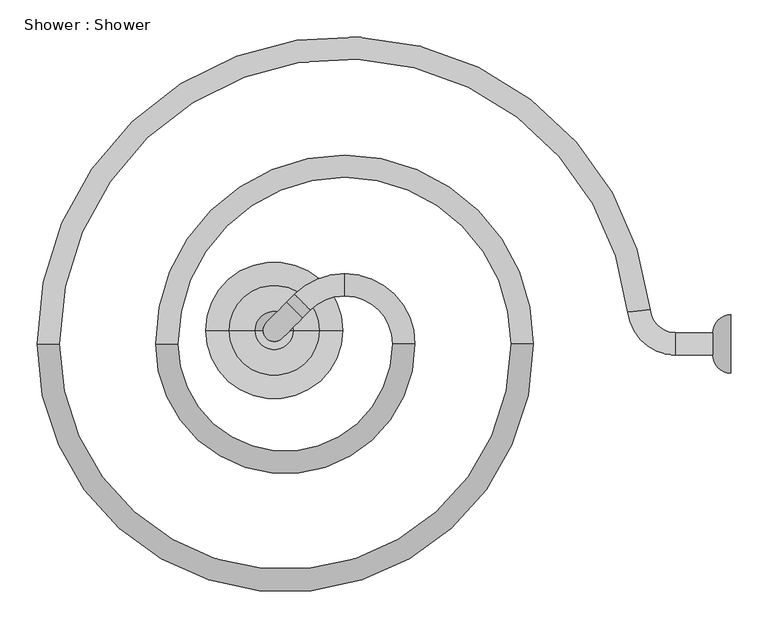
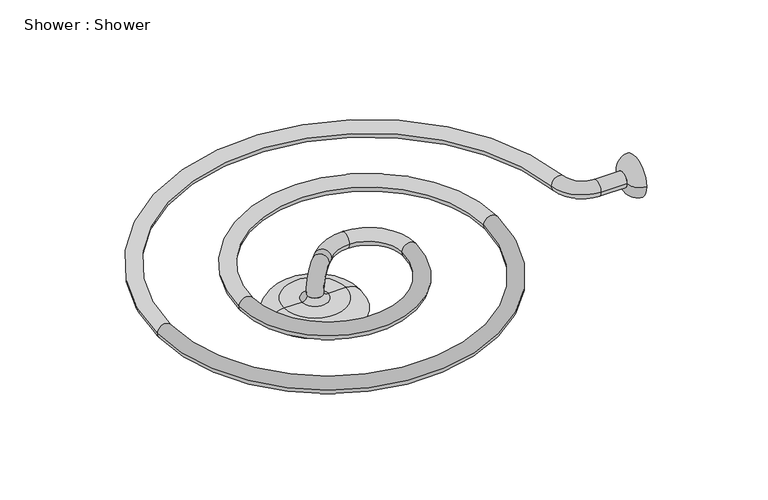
"""IFC4 building model written with IfcOpenShell, lengths in millimetres: flow terminal geometry, Shower : Shower."""

from ifc_helpers import new_model, si_unit, point, frame, origin, place, context, project, spatial, circle_curve, ellipse_curve, trimmed, source, transform, mapped, element, save
from ifc_brep_helpers import plane_surface, cylinder_surface, revolved_surface, advanced_brep


def shower_shower_db6c2e8e(model_context):
    return source(origin(), model_context, "Body", "AdvancedBrep", [
        advanced_brep(
        [(497.2135955, -15.0, 0.0), (497.2135955, 15.0, 0.0), (447.2135955, -15.0, 0.0), (447.2135955, 15.0, 0.0), (382.6160761, 42.7777778, 0.0), (412.4303158, 46.1111111, 0.0), (-385.0, 0.0, 0.0), (-415.0, 0.0, 0.0), (225.0, 0.0, 0.0), (255.0, 0.0, 0.0), (-225.0, 0.0, 0.0), (-255.0, 0.0, 0.0), (65.0, 0.0, 0.0), (95.0, 0.0, 0.0), (0.0, 65.0, 0.0), (0.0, 95.0, 0.0), (-45.9619408, 45.9619408, 0.0), (-56.5685425, 56.5685425, -15.0), (-67.1751442, 67.1751442, 0.0), (-56.5685425, 56.5685425, 15.0), (-77.7817459, 56.5685425, 0.0), (-56.5685425, 35.3553391, 0.0), (-105.5150374, 28.835251, -39.220797), (-84.301834, 7.6220476, -39.220797)],
        [
            (0, 1, circle_curve(frame((497.2135955, 0.0, 0.0), z_axis=(1.0, 0.0, 0.0), x_axis=(0.0, 1.0, 0.0)), 15.0)),
            (1, 0, circle_curve(frame((497.2135955, 0.0, 0.0), z_axis=(1.0, 0.0, 0.0), x_axis=(0.0, 1.0, 0.0)), 15.0)),
            (0, 2),
            (2, 3, circle_curve(frame((447.2135955, 0.0, 0.0), z_axis=(1.0, 0.0, 0.0), x_axis=(0.0, 1.0, 0.0)), 15.0)),
            (3, 1),
            (3, 2, circle_curve(frame((447.2135955, 0.0, 0.0), z_axis=(1.0, 0.0, 0.0), x_axis=(0.0, 1.0, 0.0)), 15.0)),
            (2, 4, circle_curve(frame((447.2135955, 50.0, 0.0), z_axis=(0.0, 0.0, -1.0), x_axis=(0.0, -1.0, 0.0)), 65.0)),
            (4, 5, circle_curve(frame((397.523196, 44.4444444, 0.0), z_axis=(0.11111111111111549, -0.993807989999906, 0.0), x_axis=(0.993807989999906, 0.11111111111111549, 0.0)), 15.0)),
            (5, 3, circle_curve(frame((447.2135955, 50.0, 0.0), z_axis=(0.0, 0.0, 1.0), x_axis=(0.0, -1.0, 0.0)), 35.0)),
            (5, 4, circle_curve(frame((397.523196, 44.4444444, 0.0), z_axis=(0.11111111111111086, -0.9938079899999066, 0.0), x_axis=(0.9938079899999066, 0.11111111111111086, 0.0)), 15.0)),
            (4, 6, circle_curve(frame((0.0, 0.0, 0.0), z_axis=(0.0, 0.0, 1.0), x_axis=(0.9938079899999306, 0.11111111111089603, 0.0)), 385.0)),
            (6, 7, circle_curve(frame((-400.0, 0.0, 0.0), z_axis=(0.0, 1.0, 0.0), x_axis=(-1.0, 0.0, 0.0)), 15.0)),
            (7, 5, circle_curve(frame((0.0, 0.0, 0.0), z_axis=(0.0, 0.0, -1.0), x_axis=(0.9938079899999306, 0.11111111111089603, 0.0)), 415.0)),
            (7, 6, circle_curve(frame((-400.0, 0.0, 0.0), z_axis=(0.0, 1.0, 0.0), x_axis=(-1.0, 0.0, 0.0)), 15.0)),
            (6, 8, circle_curve(frame((-80.0, 0.0, 0.0), z_axis=(0.0, 0.0, 1.0), x_axis=(-1.0, 0.0, 0.0)), 305.0)),
            (8, 9, circle_curve(frame((240.0, 0.0, 0.0), z_axis=(-1.5118437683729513e-12, -1.0, 0.0), x_axis=(1.0, -1.5118437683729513e-12, 0.0)), 15.0)),
            (9, 7, circle_curve(frame((-80.0, 0.0, 0.0), z_axis=(0.0, 0.0, -1.0), x_axis=(-1.0, 0.0, 0.0)), 335.0)),
            (9, 8, circle_curve(frame((240.0, 0.0, 0.0), z_axis=(-1.5122878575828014e-12, -1.0, 0.0), x_axis=(1.0, -1.5122878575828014e-12, 0.0)), 15.0)),
            (8, 10, circle_curve(frame((0.0, 0.0, 0.0), z_axis=(0.0, 0.0, 1.0), x_axis=(1.0, -1.74196280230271e-12, 0.0)), 225.0)),
            (10, 11, circle_curve(frame((-240.0, 0.0, 0.0), z_axis=(0.0, 1.0, 0.0), x_axis=(-1.0, 0.0, 0.0)), 15.0)),
            (11, 9, circle_curve(frame((0.0, 0.0, 0.0), z_axis=(0.0, 0.0, -1.0), x_axis=(1.0, -1.74196280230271e-12, 0.0)), 255.0)),
            (11, 10, circle_curve(frame((-240.0, 0.0, 0.0), z_axis=(0.0, 1.0, 0.0), x_axis=(-1.0, 0.0, 0.0)), 15.0)),
            (10, 12, circle_curve(frame((-80.0, 0.0, 0.0), z_axis=(0.0, 0.0, 1.0), x_axis=(-1.0, 1.098355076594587e-12, 0.0)), 145.0)),
            (12, 13, circle_curve(frame((80.0, 0.0, 0.0), z_axis=(-1.3501952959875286e-12, -1.0, 0.0), x_axis=(1.0, -1.3501952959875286e-12, 0.0)), 15.0)),
            (13, 11, circle_curve(frame((-80.0, 0.0, 0.0), z_axis=(0.0, 0.0, -1.0), x_axis=(-1.0, 1.098355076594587e-12, 0.0)), 175.0)),
            (13, 12, circle_curve(frame((80.0, 0.0, 0.0), z_axis=(-1.3519716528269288e-12, -1.0, 0.0), x_axis=(1.0, -1.3519716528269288e-12, 0.0)), 15.0)),
            (12, 14, circle_curve(frame((0.0, 0.0, 0.0), z_axis=(0.0, 0.0, 1.0), x_axis=(1.0, -1.5865315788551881e-12, 0.0)), 65.0)),
            (14, 15, circle_curve(frame((0.0, 80.0, 0.0), z_axis=(1.0, 0.0, 0.0), x_axis=(0.0, 1.0, 0.0)), 15.0)),
            (15, 13, circle_curve(frame((0.0, 0.0, 0.0), z_axis=(0.0, 0.0, -1.0), x_axis=(1.0, -1.5865315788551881e-12, 0.0)), 95.0)),
            (15, 14, circle_curve(frame((0.0, 80.0, 0.0), z_axis=(1.0, 0.0, 0.0), x_axis=(0.0, 1.0, 0.0)), 15.0)),
            (14, 16, circle_curve(frame((0.0, 0.0, 0.0), z_axis=(0.0, 0.0, 1.0), x_axis=(0.0, 1.0, 0.0)), 65.0)),
            (16, 17, circle_curve(frame((-56.5685425, 56.5685425, 0.0), z_axis=(0.7071067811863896, 0.7071067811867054, 0.0), x_axis=(-0.7071067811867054, 0.7071067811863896, 0.0)), 15.0)),
            (17, 18, circle_curve(frame((-56.5685425, 56.5685425, 0.0), z_axis=(0.7071067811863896, 0.7071067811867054, 0.0), x_axis=(-0.7071067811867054, 0.7071067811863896, 0.0)), 15.0)),
            (18, 15, circle_curve(frame((0.0, 0.0, 0.0), z_axis=(0.0, 0.0, -1.0), x_axis=(0.0, 1.0, 0.0)), 95.0)),
            (18, 19, circle_curve(frame((-56.5685425, 56.5685425, 0.0), z_axis=(0.7071067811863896, 0.7071067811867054, 0.0), x_axis=(-0.7071067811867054, 0.7071067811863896, 0.0)), 15.0)),
            (19, 16, circle_curve(frame((-56.5685425, 56.5685425, 0.0), z_axis=(0.707106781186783, 0.707106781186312, 0.0), x_axis=(-0.707106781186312, 0.707106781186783, 0.0)), 15.0)),
            (18, 20),
            (20, 21, circle_curve(frame((-67.1751442, 45.9619408, 0.0), z_axis=(0.7071067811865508, 0.7071067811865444, 0.0), x_axis=(-0.7071067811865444, 0.7071067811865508, 0.0)), 15.0)),
            (21, 16),
            (21, 20, circle_curve(frame((-67.1751442, 45.9619408, 0.0), z_axis=(0.7071067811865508, 0.7071067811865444, 0.0), x_axis=(-0.7071067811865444, 0.7071067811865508, 0.0)), 15.0)),
            (22, 23, circle_curve(frame((-94.9084357, 18.2286493, -39.220797), z_axis=(0.0, 0.0, -1.0000000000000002), x_axis=(-0.7071067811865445, 0.7071067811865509, 0.0)), 15.0)),
            (23, 22, circle_curve(frame((-94.9084357, 18.2286493, -39.220797), z_axis=(0.0, 0.0, -1.0000000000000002), x_axis=(-0.7071067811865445, 0.7071067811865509, 0.0)), 15.0)),
            (20, 22, circle_curve(frame((-77.7817459, 56.5685425, -39.220797), z_axis=(0.7071067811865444, -0.7071067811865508, 0.0), x_axis=(0.0, 0.0, 1.0000000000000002)), 39.220797)),
            (23, 21, circle_curve(frame((-56.5685425, 35.3553391, -39.220797), z_axis=(-0.7071067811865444, 0.7071067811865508, 0.0), x_axis=(0.0, 0.0, 1.0000000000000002)), 39.220797)),
        ],
        [
            plane_surface(frame((497.2135955, 0.0, 0.0), z_axis=(1.0, 0.0, 0.0), x_axis=(0.0, 0.0, 1.0))),
            cylinder_surface(frame((497.2135955, 0.0, 0.0), z_axis=(1.0, 0.0, 0.0), x_axis=(0.0, 1.0, 0.0)), 15.0),
            revolved_surface(trimmed(ellipse_curve(frame((447.2135955, 0.0, 0.0), z_axis=(1.0, 0.0, 0.0), x_axis=(0.0, 1.0, 0.0)), 15.0, 15.0), [point((447.2135955, -15.0, 0.0))], [point((447.2135955, 15.0, 0.0))], True, "CARTESIAN"), (447.2135955, 50.0, 0.0), (0.0, 0.0, -1.0)),
            revolved_surface(trimmed(ellipse_curve(frame((447.2135955, 0.0, 0.0), z_axis=(1.0, 0.0, 0.0), x_axis=(0.0, 1.0, 0.0)), 15.0, 15.0), [point((447.2135955, 15.0, 0.0))], [point((447.2135955, -15.0, 0.0))], True, "CARTESIAN"), (447.2135955, 50.0, 0.0), (0.0, 0.0, -1.0)),
            revolved_surface(trimmed(ellipse_curve(frame((397.523196, 44.4444444, 0.0), z_axis=(0.11111111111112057, -0.9938079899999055, 0.0), x_axis=(0.9938079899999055, 0.11111111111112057, 0.0)), 15.0, 15.0), [point((382.6160761, 42.7777778, 0.0))], [point((412.4303158, 46.1111111, 0.0))], True, "CARTESIAN"), (0.0, 0.0, 0.0), (0.0, 0.0, 1.0)),
            revolved_surface(trimmed(ellipse_curve(frame((397.523196, 44.4444444, 0.0), z_axis=(0.11111111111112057, -0.9938079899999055, 0.0), x_axis=(0.9938079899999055, 0.11111111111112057, 0.0)), 15.0, 15.0), [point((412.4303158, 46.1111111, 0.0))], [point((382.6160761, 42.7777778, 0.0))], True, "CARTESIAN"), (0.0, 0.0, 0.0), (0.0, 0.0, 1.0)),
            revolved_surface(trimmed(ellipse_curve(frame((-400.0, 0.0, 0.0), z_axis=(0.0, 1.0, 0.0), x_axis=(-1.0, 0.0, 0.0)), 15.0, 15.0), [point((-385.0, 0.0, 0.0))], [point((-415.0, 0.0, 0.0))], True, "CARTESIAN"), (-80.0, 0.0, 0.0), (0.0, 0.0, 1.0)),
            revolved_surface(trimmed(ellipse_curve(frame((-400.0, 0.0, 0.0), z_axis=(0.0, 1.0, 0.0), x_axis=(-1.0, 0.0, 0.0)), 15.0, 15.0), [point((-415.0, 0.0, 0.0))], [point((-385.0, 0.0, 0.0))], True, "CARTESIAN"), (-80.0, 0.0, 0.0), (0.0, 0.0, 1.0)),
            revolved_surface(trimmed(ellipse_curve(frame((240.0, 0.0, 0.0), z_axis=(-1.5158405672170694e-12, -1.0, 0.0), x_axis=(1.0, -1.5158405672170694e-12, 0.0)), 15.0, 15.0), [point((225.0, 0.0, 0.0))], [point((255.0, 0.0, 0.0))], True, "CARTESIAN"), (0.0, 0.0, 0.0), (0.0, 0.0, 1.0)),
            revolved_surface(trimmed(ellipse_curve(frame((240.0, 0.0, 0.0), z_axis=(-1.5158405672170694e-12, -1.0, 0.0), x_axis=(1.0, -1.5158405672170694e-12, 0.0)), 15.0, 15.0), [point((255.0, 0.0, 0.0))], [point((225.0, 0.0, 0.0))], True, "CARTESIAN"), (0.0, 0.0, 0.0), (0.0, 0.0, 1.0)),
            revolved_surface(trimmed(ellipse_curve(frame((-240.0, 0.0, 0.0), z_axis=(0.0, 1.0, 0.0), x_axis=(-1.0, 0.0, 0.0)), 15.0, 15.0), [point((-225.0, 0.0, 0.0))], [point((-255.0, 0.0, 0.0))], True, "CARTESIAN"), (-80.0, 0.0, 0.0), (0.0, 0.0, 1.0)),
            revolved_surface(trimmed(ellipse_curve(frame((-240.0, 0.0, 0.0), z_axis=(0.0, 1.0, 0.0), x_axis=(-1.0, 0.0, 0.0)), 15.0, 15.0), [point((-255.0, 0.0, 0.0))], [point((-225.0, 0.0, 0.0))], True, "CARTESIAN"), (-80.0, 0.0, 0.0), (0.0, 0.0, 1.0)),
            revolved_surface(trimmed(ellipse_curve(frame((80.0, 0.0, 0.0), z_axis=(-1.3604093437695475e-12, -1.0, 0.0), x_axis=(1.0, -1.3604093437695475e-12, 0.0)), 15.0, 15.0), [point((65.0, 0.0, 0.0))], [point((95.0, 0.0, 0.0))], True, "CARTESIAN"), (0.0, 0.0, 0.0), (0.0, 0.0, 1.0)),
            revolved_surface(trimmed(ellipse_curve(frame((80.0, 0.0, 0.0), z_axis=(-1.3604093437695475e-12, -1.0, 0.0), x_axis=(1.0, -1.3604093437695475e-12, 0.0)), 15.0, 15.0), [point((95.0, 0.0, 0.0))], [point((65.0, 0.0, 0.0))], True, "CARTESIAN"), (0.0, 0.0, 0.0), (0.0, 0.0, 1.0)),
            revolved_surface(trimmed(ellipse_curve(frame((0.0, 80.0, 0.0), z_axis=(1.0, 0.0, 0.0), x_axis=(0.0, 1.0, 0.0)), 15.0, 15.0), [point((0.0, 65.0, 0.0))], [point((0.0, 95.0, 0.0))], True, "CARTESIAN"), (0.0, 0.0, 0.0), (0.0, 0.0, 1.0)),
            revolved_surface(trimmed(ellipse_curve(frame((0.0, 80.0, 0.0), z_axis=(1.0, 0.0, 0.0), x_axis=(0.0, 1.0, 0.0)), 15.0, 15.0), [point((0.0, 95.0, 0.0))], [point((0.0, 65.0, 0.0))], True, "CARTESIAN"), (0.0, 0.0, 0.0), (0.0, 0.0, 1.0)),
            cylinder_surface(frame((-56.5685425, 56.5685425, 0.0), z_axis=(0.7071067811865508, 0.7071067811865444, 0.0), x_axis=(-0.7071067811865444, 0.7071067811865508, 0.0)), 15.0),
            plane_surface(frame((-94.9084357, 18.2286493, -39.220797), z_axis=(0.0, 0.0, -1.0000000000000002), x_axis=(-0.7071067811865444, 0.7071067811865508, 0.0))),
            revolved_surface(trimmed(ellipse_curve(frame((-67.1751442, 45.9619408, 0.0), z_axis=(0.7071067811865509, 0.7071067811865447, 0.0), x_axis=(-0.7071067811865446, 0.7071067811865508, 0.0)), 15.0, 15.0), [point((-77.7817459, 56.5685425, 0.0))], [point((-56.5685425, 35.3553391, 0.0))], True, "CARTESIAN"), (-67.1751442, 45.9619408, -39.220797), (0.7071067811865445, -0.7071067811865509, 0.0)),
            revolved_surface(trimmed(ellipse_curve(frame((-67.1751442, 45.9619408, 0.0), z_axis=(0.7071067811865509, 0.7071067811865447, 0.0), x_axis=(-0.7071067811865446, 0.7071067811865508, 0.0)), 15.0, 15.0), [point((-56.5685425, 35.3553391, 0.0))], [point((-77.7817459, 56.5685425, 0.0))], True, "CARTESIAN"), (-67.1751442, 45.9619408, -39.220797), (0.7071067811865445, -0.7071067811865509, 0.0)),
        ],
        [
            (0, [[1, 2]]),
            (1, [[-1, 3, 4, 5]]),
            (1, [[-2, -5, 6, -3]]),
            (2, [[-4, 7, 8, 9]]),
            (3, [[-6, -9, 10, -7]]),
            (4, [[-8, 11, 12, 13]]),
            (5, [[-10, -13, 14, -11]]),
            (6, [[-12, 15, 16, 17]]),
            (7, [[-14, -17, 18, -15]]),
            (8, [[-16, 19, 20, 21]]),
            (9, [[-18, -21, 22, -19]]),
            (10, [[-20, 23, 24, 25]]),
            (11, [[-22, -25, 26, -23]]),
            (12, [[-24, 27, 28, 29]]),
            (13, [[-26, -29, 30, -27]]),
            (14, [[-28, 31, 32, 33, 34]]),
            (15, [[-30, -34, 35, 36, -31]]),
            (16, [[37, 38, 39, -36, -35]]),
            (16, [[-37, -33, -32, -39, 40]]),
            (17, [[41, 42]]),
            (18, [[-38, 43, -42, 44]]),
            (19, [[-40, -44, -41, -43]]),
        ],
    ),
        advanced_brep(
        [(497.2135955, 0.0, 0.0), (497.2135955, 15.0, 0.0), (497.2135955, -15.0, 0.0), (521.6194463, -39.4058508, 0.0), (521.6194463, 39.4058508, 0.0), (521.6194463, 0.0, 0.0)],
        [
            (0, 1),
            (1, 2, circle_curve(frame((497.2135955, 0.0, 0.0), z_axis=(-1.0, 0.0, 0.0), x_axis=(0.0, 1.0, 0.0)), 15.0)),
            (2, 0),
            (2, 1, circle_curve(frame((497.2135955, 0.0, 0.0), z_axis=(-1.0, 0.0, 0.0), x_axis=(0.0, 1.0, 0.0)), 15.0)),
            (3, 4, circle_curve(frame((521.6194463, 0.0, 0.0), z_axis=(1.0, 0.0, 0.0), x_axis=(0.0, 1.0, 0.0)), 39.4058508)),
            (4, 5),
            (5, 3),
            (4, 3, circle_curve(frame((521.6194463, 0.0, 0.0), z_axis=(1.0, 0.0, 0.0), x_axis=(0.0, 1.0, 0.0)), 39.4058508)),
            (1, 4, circle_curve(frame((521.6194463, 15.0, 0.0), z_axis=(0.0, 0.0, -1.0), x_axis=(1.0, 0.0, 0.0)), 24.4058508)),
            (3, 2, circle_curve(frame((521.6194463, -15.0, 0.0), z_axis=(0.0, 0.0, -1.0), x_axis=(1.0, 0.0, 0.0)), 24.4058508)),
        ],
        [
            plane_surface(frame((497.2135955, 0.0, 0.0), z_axis=(-1.0, 0.0, 0.0), x_axis=(0.0, 1.0, 0.0))),
            plane_surface(frame((521.6194463, 0.0, 0.0), z_axis=(1.0, 0.0, 0.0), x_axis=(0.0, 1.0, 0.0))),
            revolved_surface(trimmed(ellipse_curve(frame((521.6194463, 15.0, 0.0), z_axis=(0.0, 0.0, 1.0), x_axis=(1.0, 0.0, 0.0)), 24.4058508, 24.4058508), [point((521.6194463, 39.4058508, 0.0))], [point((497.2135955, 15.0, 0.0))], True, "CARTESIAN"), (508.5058431, 0.0, 0.0), (-1.0, 0.0, 0.0)),
        ],
        [
            (0, [[1, 2, 3]]),
            (0, [[-3, 4, -1]]),
            (1, [[5, 6, 7]]),
            (1, [[8, -7, -6]]),
            (2, [[-2, 9, -5, 10]]),
            (2, [[-4, -10, -8, -9]]),
        ],
    ),
        advanced_brep(
        [(-79.8854464, 18.2286493, -39.220797), (-109.931425, 18.2286493, -39.220797), (-94.9084357, 18.2286493, -39.220797), (-69.301834, 18.2286493, -49.1294383), (-120.5150374, 18.2286493, -49.1294383), (-34.3141304, 18.2286493, -49.1294383), (-155.502741, 18.2286493, -49.1294383), (-2.4873322, 18.2286493, -69.8273987), (-187.3295393, 18.2286493, -69.8273987), (-94.9084357, 18.2286493, -69.8273987)],
        [
            (0, 1, circle_curve(frame((-94.9084357, 18.2286493, -39.220797), z_axis=(0.0, 0.0, 1.0), x_axis=(-1.0, 0.0, 0.0)), 15.0229893)),
            (1, 2),
            (2, 0),
            (1, 0, circle_curve(frame((-94.9084357, 18.2286493, -39.220797), z_axis=(0.0, 0.0, 1.0), x_axis=(-1.0, 0.0, 0.0)), 15.0229893)),
            (3, 4, circle_curve(frame((-94.9084357, 18.2286493, -49.1294383), z_axis=(0.0, 0.0, 1.0), x_axis=(-1.0, 0.0, 0.0)), 25.6066017)),
            (4, 1, circle_curve(frame((-120.5150374, 18.2286493, -38.5228366), z_axis=(0.0, -1.0, 0.0), x_axis=(1.0, 0.0, 0.0)), 10.6066017)),
            (0, 3, circle_curve(frame((-69.301834, 18.2286493, -38.5228366), z_axis=(0.0, -1.0, 0.0), x_axis=(-1.0, 0.0, 0.0)), 10.6066017)),
            (4, 3, circle_curve(frame((-94.9084357, 18.2286493, -49.1294383), z_axis=(0.0, 0.0, 1.0), x_axis=(-1.0, 0.0, 0.0)), 25.6066017)),
            (5, 6, circle_curve(frame((-94.9084357, 18.2286493, -49.1294383), z_axis=(0.0, 0.0, 1.0), x_axis=(-1.0, 0.0, 0.0)), 60.5943053)),
            (6, 4),
            (3, 5),
            (6, 5, circle_curve(frame((-94.9084357, 18.2286493, -49.1294383), z_axis=(0.0, 0.0, 1.0), x_axis=(-1.0, 0.0, 0.0)), 60.5943053)),
            (7, 8, circle_curve(frame((-94.9084357, 18.2286493, -69.8273987), z_axis=(0.0, 0.0, 1.0), x_axis=(-1.0, 0.0, 0.0)), 92.4211036)),
            (8, 6, circle_curve(frame((-155.502741, 18.2286493, -83.9481022), z_axis=(0.0, 1.0, 0.0), x_axis=(1.0, 0.0, 0.0)), 34.8186638)),
            (5, 7, circle_curve(frame((-34.3141304, 18.2286493, -83.9481022), z_axis=(0.0, 1.0, 0.0), x_axis=(-1.0, 0.0, 0.0)), 34.8186638)),
            (8, 7, circle_curve(frame((-94.9084357, 18.2286493, -69.8273987), z_axis=(0.0, 0.0, 1.0), x_axis=(-1.0, 0.0, 0.0)), 92.4211036)),
            (9, 8),
            (7, 9),
        ],
        [
            plane_surface(frame((-94.9084357, 18.2286493, -39.220797), z_axis=(0.0, 0.0, 1.0), x_axis=(-1.0, 0.0, 0.0))),
            revolved_surface(trimmed(ellipse_curve(frame((-120.5150374, 18.2286493, -38.5228366), z_axis=(0.0, 1.0, 0.0), x_axis=(1.0, 0.0, 0.0)), 10.6066017, 10.6066017), [point((-109.931425, 18.2286493, -39.220797))], [point((-120.5150374, 18.2286493, -49.1294383))], True, "CARTESIAN"), (-94.9084357, 18.2286493, -39.220797), (0.0, 0.0, -1.0)),
            plane_surface(frame((-94.9084357, 18.2286493, -49.1294383), z_axis=(0.0, 0.0, 1.0), x_axis=(-1.0, 0.0, 0.0))),
            revolved_surface(trimmed(ellipse_curve(frame((-155.502741, 18.2286493, -83.9481022), z_axis=(0.0, -1.0, 0.0), x_axis=(1.0, 0.0, 0.0)), 34.8186638, 34.8186638), [point((-155.502741, 18.2286493, -49.1294383))], [point((-187.3295393, 18.2286493, -69.8273987))], True, "CARTESIAN"), (-94.9084357, 18.2286493, -39.220797), (0.0, 0.0, -1.0)),
            plane_surface(frame((-94.9084357, 18.2286493, -69.8273987), z_axis=(0.0, 0.0, -1.0), x_axis=(-1.0, 0.0, 0.0))),
        ],
        [
            (0, [[1, 2, 3]]),
            (0, [[4, -3, -2]]),
            (1, [[5, 6, -1, 7]]),
            (1, [[8, -7, -4, -6]]),
            (2, [[9, 10, -5, 11]]),
            (2, [[12, -11, -8, -10]]),
            (3, [[13, 14, -9, 15]]),
            (3, [[16, -15, -12, -14]]),
            (4, [[17, -13, 18]]),
            (4, [[-18, -16, -17]]),
        ],
    ),
    ])


if __name__ == "__main__":
    model = new_model("IFC4")
    model_context = context("Model", 3, world=origin())
    ifc_project = project(units=[si_unit("LENGTHUNIT", "METRE", prefix="MILLI")], contexts=[model_context])
    site = spatial("IfcSite", under=ifc_project)
    building = spatial("IfcBuilding", under=site)
    placement = place(None, origin())
    shower_shower_shape = shower_shower_db6c2e8e(model_context)
    element("IfcFlowTerminal", 1, ObjectType="Shower : Shower", at=placement, inside=building, context=model_context, shape_type="MappedRepresentation", body=[
        mapped(shower_shower_shape, transform((0.0, 0.0, 0.0), x_axis=(1.0, 0.0, 0.0), y_axis=(0.0, 1.0, 0.0), z_axis=(0.0, 0.0, 1.0))),
    ])
    save(model, "model.ifc")
